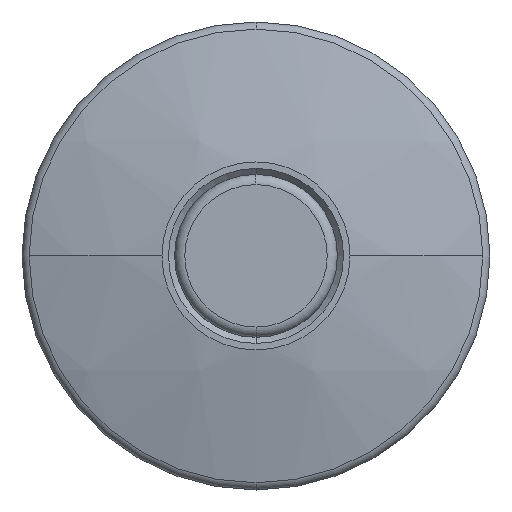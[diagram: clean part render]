
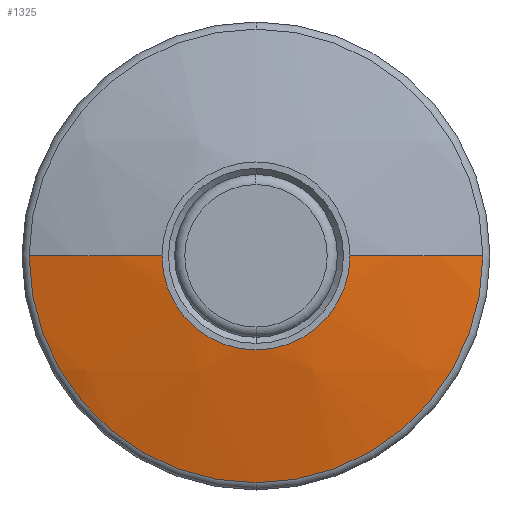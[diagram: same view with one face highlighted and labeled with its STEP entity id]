
A CAD part, top view. The second image highlights one B-rep face of the part: STEP entity #1325.
In plain terms, the highlighted spherical face has radius 38 mm.
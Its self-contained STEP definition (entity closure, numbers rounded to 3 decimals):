
#14 = CARTESIAN_POINT ( 'NONE',  ( 0., 0., 21. ) ) ;
#115 = CIRCLE ( 'NONE', #943, 38. ) ;
#135 = ORIENTED_EDGE ( 'NONE', *, *, #1790, .T. ) ;
#150 = AXIS2_PLACEMENT_3D ( 'NONE', #521, #227, #1689 ) ;
#152 = AXIS2_PLACEMENT_3D ( 'NONE', #256, #2077, #1588 ) ;
#155 = DIRECTION ( 'NONE',  ( 0., -1., 0. ) ) ;
#168 = EDGE_LOOP ( 'NONE', ( #367, #135, #1409, #1656, #1624 ) ) ;
#227 = DIRECTION ( 'NONE',  ( 0., -1., 0. ) ) ;
#256 = CARTESIAN_POINT ( 'NONE',  ( 0., 0., 19.61 ) ) ;
#304 = CARTESIAN_POINT ( 'NONE',  ( -11.147, 0., 19.61 ) ) ;
#367 = ORIENTED_EDGE ( 'NONE', *, *, #1195, .T. ) ;
#447 = EDGE_CURVE ( 'NONE', #1296, #469, #1348, .T. ) ;
#468 = DIRECTION ( 'NONE',  ( 0., 0., 1. ) ) ;
#469 = VERTEX_POINT ( 'NONE', #1697 ) ;
#504 = DIRECTION ( 'NONE',  ( 0., 0., 1. ) ) ;
#521 = CARTESIAN_POINT ( 'NONE',  ( 0., 0., -16.718 ) ) ;
#700 = FACE_OUTER_BOUND ( 'NONE', #168, .T. ) ;
#800 = DIRECTION ( 'NONE',  ( 1., 0., 0. ) ) ;
#826 = CARTESIAN_POINT ( 'NONE',  ( 0., 0., 19.61 ) ) ;
#943 = AXIS2_PLACEMENT_3D ( 'NONE', #1065, #1285, #468 ) ;
#958 = CARTESIAN_POINT ( 'NONE',  ( -4.62, 0., 21. ) ) ;
#984 = EDGE_CURVE ( 'NONE', #2020, #469, #115, .T. ) ;
#1065 = CARTESIAN_POINT ( 'NONE',  ( 0., 0., -16.718 ) ) ;
#1138 = CIRCLE ( 'NONE', #1927, 4.62 ) ;
#1195 = EDGE_CURVE ( 'NONE', #2020, #1698, #1138, .T. ) ;
#1200 = VERTEX_POINT ( 'NONE', #304 ) ;
#1279 = DIRECTION ( 'NONE',  ( 0., 0., -1. ) ) ;
#1285 = DIRECTION ( 'NONE',  ( 0., 1., 0. ) ) ;
#1296 = VERTEX_POINT ( 'NONE', #1362 ) ;
#1312 = CIRCLE ( 'NONE', #1421, 38. ) ;
#1316 = CIRCLE ( 'NONE', #152, 11.147 ) ;
#1325 = ADVANCED_FACE ( 'NONE', ( #700 ), #2027, .T. ) ;
#1348 = CIRCLE ( 'NONE', #1922, 11.147 ) ;
#1362 = CARTESIAN_POINT ( 'NONE',  ( 0., -11.147, 19.61 ) ) ;
#1409 = ORIENTED_EDGE ( 'NONE', *, *, #1520, .T. ) ;
#1421 = AXIS2_PLACEMENT_3D ( 'NONE', #1589, #155, #800 ) ;
#1520 = EDGE_CURVE ( 'NONE', #1200, #1296, #1316, .T. ) ;
#1588 = DIRECTION ( 'NONE',  ( 0., 1., 0. ) ) ;
#1589 = CARTESIAN_POINT ( 'NONE',  ( 0., 0., -16.718 ) ) ;
#1624 = ORIENTED_EDGE ( 'NONE', *, *, #984, .F. ) ;
#1650 = CARTESIAN_POINT ( 'NONE',  ( 4.62, 0., 21. ) ) ;
#1656 = ORIENTED_EDGE ( 'NONE', *, *, #447, .T. ) ;
#1689 = DIRECTION ( 'NONE',  ( 1., 0., 0. ) ) ;
#1697 = CARTESIAN_POINT ( 'NONE',  ( 11.147, 0., 19.61 ) ) ;
#1698 = VERTEX_POINT ( 'NONE', #958 ) ;
#1790 = EDGE_CURVE ( 'NONE', #1698, #1200, #1312, .T. ) ;
#1803 = DIRECTION ( 'NONE',  ( 0., 1., 0. ) ) ;
#1922 = AXIS2_PLACEMENT_3D ( 'NONE', #826, #504, #1803 ) ;
#1927 = AXIS2_PLACEMENT_3D ( 'NONE', #14, #1279, #1932 ) ;
#1932 = DIRECTION ( 'NONE',  ( 0., 1., 0. ) ) ;
#2020 = VERTEX_POINT ( 'NONE', #1650 ) ;
#2027 = SPHERICAL_SURFACE ( 'NONE', #150, 38. ) ;
#2077 = DIRECTION ( 'NONE',  ( 0., 0., 1. ) ) ;
